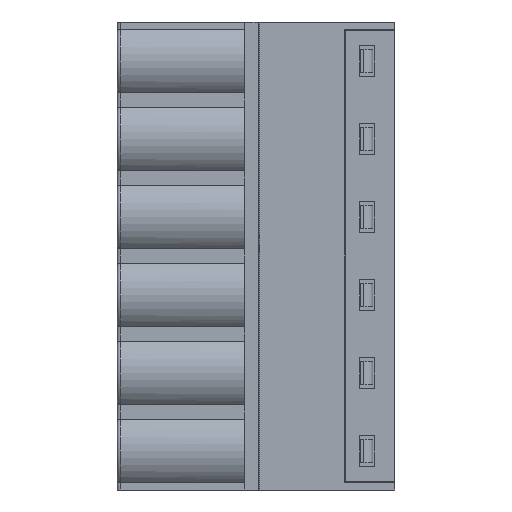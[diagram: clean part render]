
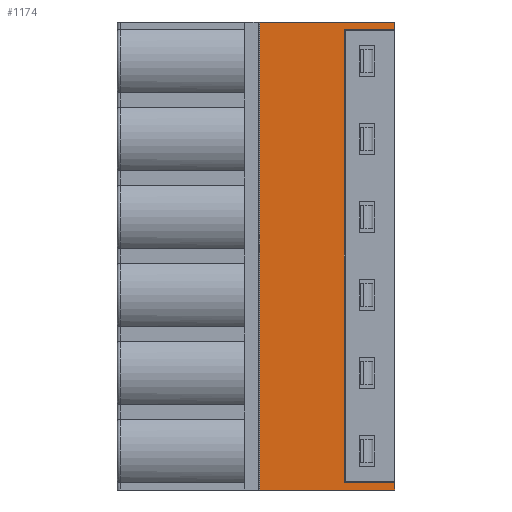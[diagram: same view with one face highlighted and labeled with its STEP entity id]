
A CAD part, left-side view. The second image highlights one B-rep face of the part: STEP entity #1174.
In plain terms, the highlighted planar face has unit normal (-1, 0, 0).
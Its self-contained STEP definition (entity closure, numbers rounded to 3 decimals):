
#1125 = ORIENTED_EDGE ( 'NONE', *, *, #12773, .T. ) ;
#1130 = CARTESIAN_POINT ( 'NONE',  ( -3.9, 3.033, 29.989 ) ) ;
#1174 = ADVANCED_FACE ( 'NONE', ( #23651 ), #5649, .T. ) ;
#1838 = CARTESIAN_POINT ( 'NONE',  ( -3.9, 0., 0.49 ) ) ;
#2028 = CARTESIAN_POINT ( 'NONE',  ( -3.9, 0., 0. ) ) ;
#2078 = EDGE_CURVE ( 'NONE', #21337, #23704, #24734, .T. ) ;
#2449 = EDGE_CURVE ( 'NONE', #23704, #19388, #25626, .T. ) ;
#2765 = CARTESIAN_POINT ( 'NONE',  ( -3.9, 0., 30.48 ) ) ;
#3021 = CARTESIAN_POINT ( 'NONE',  ( -3.9, 0.967, 29.99 ) ) ;
#3479 = VERTEX_POINT ( 'NONE', #8810 ) ;
#3554 = VECTOR ( 'NONE', #22635, 1000. ) ;
#3690 = DIRECTION ( 'NONE',  ( 0., 0., 1. ) ) ;
#3706 = ORIENTED_EDGE ( 'NONE', *, *, #16406, .F. ) ;
#4096 = LINE ( 'NONE', #12004, #10119 ) ;
#4154 = AXIS2_PLACEMENT_3D ( 'NONE', #13540, #19630, #3690 ) ;
#4528 = CARTESIAN_POINT ( 'NONE',  ( -3.9, 0.967, 0.49 ) ) ;
#4535 = DIRECTION ( 'NONE',  ( 0., 0., -1. ) ) ;
#4889 = ORIENTED_EDGE ( 'NONE', *, *, #8257, .F. ) ;
#5066 = CARTESIAN_POINT ( 'NONE',  ( -3.9, 3.3, 0.492 ) ) ;
#5107 = B_SPLINE_CURVE_WITH_KNOTS ( 'NONE', 3,
 ( #12296, #6477, #4528, #22283 ),
 .UNSPECIFIED., .F., .F.,
 ( 4, 4 ),
 ( 0., 1. ),
 .UNSPECIFIED. ) ;
#5150 = CARTESIAN_POINT ( 'NONE',  ( -3.9, 3.3, 29.988 ) ) ;
#5272 = ORIENTED_EDGE ( 'NONE', *, *, #12567, .F. ) ;
#5339 = B_SPLINE_CURVE_WITH_KNOTS ( 'NONE', 3,
 ( #5066, #12960, #13215, #15036 ),
 .UNSPECIFIED., .F., .F.,
 ( 4, 4 ),
 ( 0., 1. ),
 .UNSPECIFIED. ) ;
#5640 = LINE ( 'NONE', #16115, #25159 ) ;
#5649 = PLANE ( 'NONE',  #4154 ) ;
#5932 = DIRECTION ( 'NONE',  ( 0., -1., 0. ) ) ;
#6477 = CARTESIAN_POINT ( 'NONE',  ( -3.9, 1.933, 0.49 ) ) ;
#6915 = CARTESIAN_POINT ( 'NONE',  ( -3.9, 2.9, 0.49 ) ) ;
#6952 = LINE ( 'NONE', #14728, #3554 ) ;
#7265 = B_SPLINE_CURVE_WITH_KNOTS ( 'NONE', 3,
 ( #20908, #10924, #3021, #12740 ),
 .UNSPECIFIED., .F., .F.,
 ( 4, 4 ),
 ( 0., 1. ),
 .UNSPECIFIED. ) ;
#7543 = ORIENTED_EDGE ( 'NONE', *, *, #23955, .T. ) ;
#7811 = CARTESIAN_POINT ( 'NONE',  ( -3.9, 8.8, 30.48 ) ) ;
#7863 = EDGE_CURVE ( 'NONE', #24699, #16568, #5107, .T. ) ;
#8257 = EDGE_CURVE ( 'NONE', #19956, #18032, #6952, .T. ) ;
#8344 = VECTOR ( 'NONE', #5932, 1000. ) ;
#8810 = CARTESIAN_POINT ( 'NONE',  ( -3.9, 2.9, 29.99 ) ) ;
#8868 = B_SPLINE_CURVE_WITH_KNOTS ( 'NONE', 3,
 ( #5150, #20825, #1130, #24339 ),
 .UNSPECIFIED., .F., .F.,
 ( 4, 4 ),
 ( 0., 1. ),
 .UNSPECIFIED. ) ;
#9145 = ORIENTED_EDGE ( 'NONE', *, *, #2078, .T. ) ;
#10119 = VECTOR ( 'NONE', #15383, 1000. ) ;
#10924 = CARTESIAN_POINT ( 'NONE',  ( -3.9, 1.933, 29.99 ) ) ;
#12004 = CARTESIAN_POINT ( 'NONE',  ( -3.9, 3.3, 29.988 ) ) ;
#12296 = CARTESIAN_POINT ( 'NONE',  ( -3.9, 2.9, 0.49 ) ) ;
#12567 = EDGE_CURVE ( 'NONE', #21337, #19956, #5640, .T. ) ;
#12711 = ORIENTED_EDGE ( 'NONE', *, *, #2449, .T. ) ;
#12740 = CARTESIAN_POINT ( 'NONE',  ( -3.9, 0., 29.99 ) ) ;
#12773 = EDGE_CURVE ( 'NONE', #3479, #18032, #7265, .T. ) ;
#12960 = CARTESIAN_POINT ( 'NONE',  ( -3.9, 3.167, 0.492 ) ) ;
#13215 = CARTESIAN_POINT ( 'NONE',  ( -3.9, 3.033, 0.491 ) ) ;
#13540 = CARTESIAN_POINT ( 'NONE',  ( -3.9, 8.9, 0. ) ) ;
#13715 = VECTOR ( 'NONE', #4535, 1000. ) ;
#14006 = DIRECTION ( 'NONE',  ( 0., 0., -1. ) ) ;
#14615 = CARTESIAN_POINT ( 'NONE',  ( -3.9, 3.3, 29.988 ) ) ;
#14728 = CARTESIAN_POINT ( 'NONE',  ( -3.9, 0., 30.48 ) ) ;
#15036 = CARTESIAN_POINT ( 'NONE',  ( -3.9, 2.9, 0.49 ) ) ;
#15383 = DIRECTION ( 'NONE',  ( 0., 0., -1. ) ) ;
#16115 = CARTESIAN_POINT ( 'NONE',  ( -3.9, 8.8, 30.48 ) ) ;
#16406 = EDGE_CURVE ( 'NONE', #16568, #19388, #23862, .T. ) ;
#16450 = CARTESIAN_POINT ( 'NONE',  ( -3.9, 8.8, 30.48 ) ) ;
#16568 = VERTEX_POINT ( 'NONE', #22435 ) ;
#16643 = EDGE_LOOP ( 'NONE', ( #12711, #3706, #22305, #25542, #23201, #7543, #1125, #4889, #5272, #9145 ) ) ;
#17233 = CARTESIAN_POINT ( 'NONE',  ( -3.9, 3.3, 0.492 ) ) ;
#18019 = VERTEX_POINT ( 'NONE', #17233 ) ;
#18032 = VERTEX_POINT ( 'NONE', #23585 ) ;
#19388 = VERTEX_POINT ( 'NONE', #2028 ) ;
#19630 = DIRECTION ( 'NONE',  ( -1., 0., 0. ) ) ;
#19860 = VECTOR ( 'NONE', #14006, 1000. ) ;
#19956 = VERTEX_POINT ( 'NONE', #2765 ) ;
#20564 = EDGE_CURVE ( 'NONE', #18019, #24699, #5339, .T. ) ;
#20825 = CARTESIAN_POINT ( 'NONE',  ( -3.9, 3.167, 29.988 ) ) ;
#20908 = CARTESIAN_POINT ( 'NONE',  ( -3.9, 2.9, 29.99 ) ) ;
#21006 = EDGE_CURVE ( 'NONE', #22776, #18019, #4096, .T. ) ;
#21337 = VERTEX_POINT ( 'NONE', #7811 ) ;
#22085 = DIRECTION ( 'NONE',  ( 0., -1., 0. ) ) ;
#22283 = CARTESIAN_POINT ( 'NONE',  ( -3.9, 0., 0.49 ) ) ;
#22305 = ORIENTED_EDGE ( 'NONE', *, *, #7863, .F. ) ;
#22435 = CARTESIAN_POINT ( 'NONE',  ( -3.9, 0., 0.49 ) ) ;
#22635 = DIRECTION ( 'NONE',  ( 0., 0., -1. ) ) ;
#22776 = VERTEX_POINT ( 'NONE', #14615 ) ;
#23201 = ORIENTED_EDGE ( 'NONE', *, *, #21006, .F. ) ;
#23446 = CARTESIAN_POINT ( 'NONE',  ( -3.9, 8.8, 0. ) ) ;
#23585 = CARTESIAN_POINT ( 'NONE',  ( -3.9, 0., 29.99 ) ) ;
#23651 = FACE_OUTER_BOUND ( 'NONE', #16643, .T. ) ;
#23683 = CARTESIAN_POINT ( 'NONE',  ( -3.9, 8.8, 0. ) ) ;
#23704 = VERTEX_POINT ( 'NONE', #23446 ) ;
#23862 = LINE ( 'NONE', #1838, #19860 ) ;
#23955 = EDGE_CURVE ( 'NONE', #22776, #3479, #8868, .T. ) ;
#24339 = CARTESIAN_POINT ( 'NONE',  ( -3.9, 2.9, 29.99 ) ) ;
#24699 = VERTEX_POINT ( 'NONE', #6915 ) ;
#24734 = LINE ( 'NONE', #16450, #13715 ) ;
#25159 = VECTOR ( 'NONE', #22085, 1000. ) ;
#25542 = ORIENTED_EDGE ( 'NONE', *, *, #20564, .F. ) ;
#25626 = LINE ( 'NONE', #23683, #8344 ) ;
